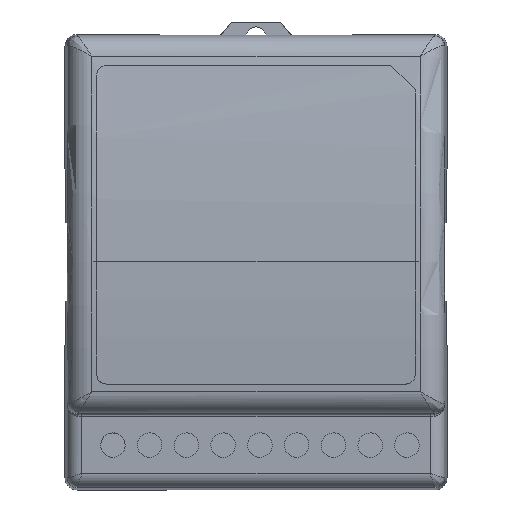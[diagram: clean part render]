
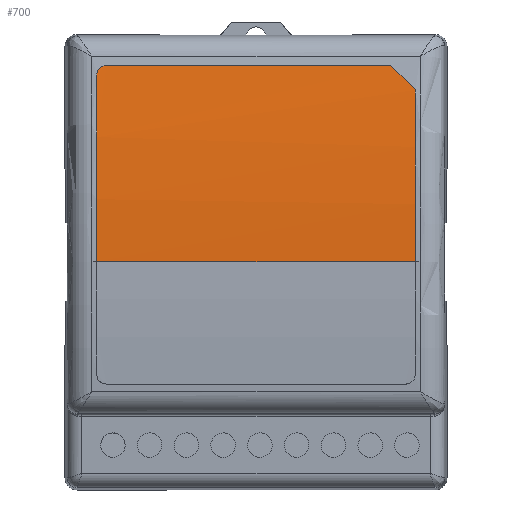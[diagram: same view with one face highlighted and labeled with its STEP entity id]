
A CAD part, top view. The second image highlights one B-rep face of the part: STEP entity #700.
In plain terms, the highlighted cylindrical face has radius 250 mm (diameter 500 mm), a partial arc.
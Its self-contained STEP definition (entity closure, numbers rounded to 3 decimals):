
#10=CARTESIAN_POINT('',(0.,-38.5,-193.4));
#20=DIRECTION('',(0.,1.,0.));
#30=DIRECTION('',(0.,0.,1.));
#40=AXIS2_PLACEMENT_3D('',#10,#20,#30);
#50=CYLINDRICAL_SURFACE('',#40,250.);
#60=CARTESIAN_POINT('',(0.,-38.5,56.6));
#70=DIRECTION('',(0.,1.,0.));
#80=VECTOR('',#70,1.);
#90=LINE('',#60,#80);
#100=CARTESIAN_POINT('',(0.,-32.5,56.6));
#110=VERTEX_POINT('',#100);
#120=CARTESIAN_POINT('',(0.,32.5,56.6));
#130=VERTEX_POINT('',#120);
#140=EDGE_CURVE('',#110,#130,#90,.T.);
#150=ORIENTED_EDGE('',*,*,#140,.F.);
#160=CARTESIAN_POINT('',(0.,32.5,-193.4));
#170=DIRECTION('',(0.,-1.,0.));
#180=DIRECTION('',(0.,0.,1.));
#190=AXIS2_PLACEMENT_3D('',#160,#170,#180);
#200=CIRCLE('',#190,250.);
#210=CARTESIAN_POINT('',(38.,32.5,53.695));
#220=VERTEX_POINT('NONE',#210);
#230=EDGE_CURVE('',#220,#130,#200,.T.);
#240=ORIENTED_EDGE('',*,*,#230,.T.);
#250=CARTESIAN_POINT('',(40.,30.5,53.379));
#260=CARTESIAN_POINT('',(40.,30.633,53.379));
#270=CARTESIAN_POINT('',(39.987,30.763,
53.381));
#280=CARTESIAN_POINT('',(39.936,31.02,
53.39));
#290=CARTESIAN_POINT('',(39.897,31.148,
53.396));
#300=CARTESIAN_POINT('',(39.796,31.391,
53.412));
#310=CARTESIAN_POINT('',(39.734,31.506,
53.422));
#320=CARTESIAN_POINT('',(39.588,31.723,
53.446));
#330=CARTESIAN_POINT('',(39.503,31.826,
53.459));
#340=CARTESIAN_POINT('',(39.226,32.102,
53.504));
#350=CARTESIAN_POINT('',(39.003,32.25,
53.539));
#360=CARTESIAN_POINT('',(38.524,32.448,
53.614));
#370=CARTESIAN_POINT('',(38.263,32.5,53.655));
#380=CARTESIAN_POINT('',(38.,32.5,53.695));
#390=B_SPLINE_CURVE_WITH_KNOTS('',3,(#250,#260,#270,#280,#290,#300,#310,
#320,#330,#340,#350,#360,#370,#380),.UNSPECIFIED.,.F.,.F.,(4,2,2,2,2,2,4
),(0.,0.,0.001,
0.001,0.002,0.002,
0.003),.UNSPECIFIED.);
#400=CARTESIAN_POINT('',(40.,30.5,53.379));
#410=VERTEX_POINT('NONE',#400);
#420=EDGE_CURVE('NONE',#410,#220,#390,.T.);
#430=ORIENTED_EDGE('',*,*,#420,.T.);
#440=CARTESIAN_POINT('',(40.,-38.5,53.379));
#450=DIRECTION('',(0.,1.,0.));
#460=VECTOR('',#450,1.);
#470=LINE('',#440,#460);
#480=CARTESIAN_POINT('',(40.,-27.5,53.379));
#490=VERTEX_POINT('NONE',#480);
#500=EDGE_CURVE('NONE',#490,#410,#470,.T.);
#510=ORIENTED_EDGE('',*,*,#500,.T.);
#520=CARTESIAN_POINT('',(35.,-32.5,54.138));
#530=CARTESIAN_POINT('',(36.669,-30.831,
53.902));
#540=CARTESIAN_POINT('',(38.336,-29.164,
53.649));
#550=CARTESIAN_POINT('',(40.,-27.5,53.379));
#560=(BOUNDED_CURVE() B_SPLINE_CURVE(3,(#520,#530,#540,#550),
.UNSPECIFIED.,.F.,.F.) B_SPLINE_CURVE_WITH_KNOTS((4,4),(4.853
,4.873),.UNSPECIFIED.) CURVE() GEOMETRIC_REPRESENTATION_ITEM()
 RATIONAL_B_SPLINE_CURVE((1.,1.,1.,1.)) 
REPRESENTATION_ITEM(''));
#570=CARTESIAN_POINT('',(35.,-32.5,54.138));
#580=VERTEX_POINT('NONE',#570);
#590=EDGE_CURVE('NONE',#580,#490,#560,.T.);
#600=ORIENTED_EDGE('',*,*,#590,.T.);
#610=CARTESIAN_POINT('',(0.,-32.5,-193.4));
#620=DIRECTION('',(0.,1.,0.));
#630=DIRECTION('',(0.,0.,-1.));
#640=AXIS2_PLACEMENT_3D('',#610,#620,#630);
#650=CIRCLE('',#640,250.);
#660=EDGE_CURVE('NONE',#110,#580,#650,.T.);
#670=ORIENTED_EDGE('',*,*,#660,.T.);
#680=EDGE_LOOP('',(#670,#600,#510,#430,#240,#150));
#690=FACE_OUTER_BOUND('',#680,.T.);
#700=ADVANCED_FACE('NONE',(#690),#50,.T.);
